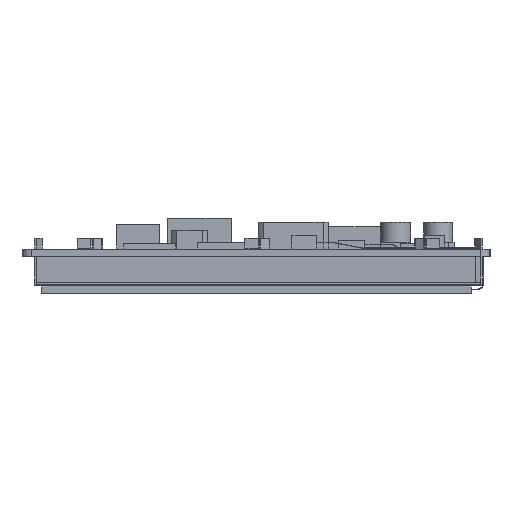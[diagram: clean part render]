
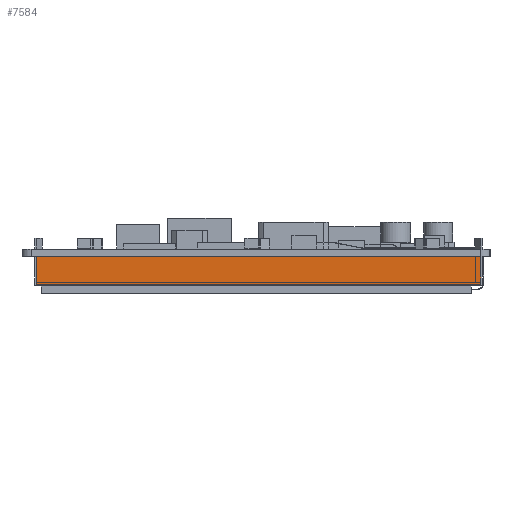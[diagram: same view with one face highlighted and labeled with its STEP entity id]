
A CAD part, left-side view. The second image highlights one B-rep face of the part: STEP entity #7584.
In plain terms, the highlighted planar face has unit normal (-1, 0, 0).
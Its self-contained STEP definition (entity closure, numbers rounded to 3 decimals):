
#7584=ADVANCED_FACE('',(#11949),#9760,.F.);
#9760=PLANE('',#42681);
#11949=FACE_OUTER_BOUND('',#14238,.T.);
#14238=EDGE_LOOP('',(#22078,#22079,#22080,#22081));
#22078=ORIENTED_EDGE('',*,*,#30863,.T.);
#22079=ORIENTED_EDGE('',*,*,#30864,.F.);
#22080=ORIENTED_EDGE('',*,*,#30865,.F.);
#22081=ORIENTED_EDGE('',*,*,#30866,.T.);
#26522=VERTEX_POINT('',#60497);
#26523=VERTEX_POINT('',#60498);
#26524=VERTEX_POINT('',#60500);
#26525=VERTEX_POINT('',#60502);
#30863=EDGE_CURVE('',#26522,#26523,#35429,.T.);
#30864=EDGE_CURVE('',#26524,#26523,#35430,.T.);
#30865=EDGE_CURVE('',#26525,#26524,#35431,.T.);
#30866=EDGE_CURVE('',#26525,#26522,#35432,.T.);
#35429=LINE('',#60496,#39918);
#35430=LINE('',#60499,#39919);
#35431=LINE('',#60501,#39920);
#35432=LINE('',#60503,#39921);
#39918=VECTOR('',#50451,1.);
#39919=VECTOR('',#50452,1.);
#39920=VECTOR('',#50453,1.);
#39921=VECTOR('',#50454,1.);
#42681=AXIS2_PLACEMENT_3D('',#60504,#50455,#50456);
#50451=DIRECTION('',(0.,1.,0.));
#50452=DIRECTION('',(0.,0.,1.));
#50453=DIRECTION('',(0.,1.,0.));
#50454=DIRECTION('',(0.,0.,1.));
#50455=DIRECTION('',(1.,0.,0.));
#50456=DIRECTION('',(0.,1.,0.));
#60496=CARTESIAN_POINT('',(-77.25,-45.34,-1.6));
#60497=CARTESIAN_POINT('',(-77.25,-45.34,-1.6));
#60498=CARTESIAN_POINT('',(-77.25,54.68,-1.6));
#60499=CARTESIAN_POINT('',(-77.25,54.68,-7.9));
#60500=CARTESIAN_POINT('',(-77.25,54.68,-7.9));
#60501=CARTESIAN_POINT('',(-77.25,-45.34,-7.9));
#60502=CARTESIAN_POINT('',(-77.25,-45.34,-7.9));
#60503=CARTESIAN_POINT('',(-77.25,-45.34,-7.9));
#60504=CARTESIAN_POINT('',(-77.25,-45.34,-7.9));
